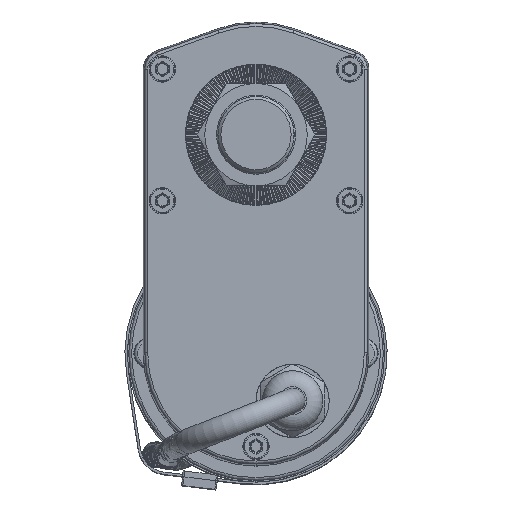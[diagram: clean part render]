
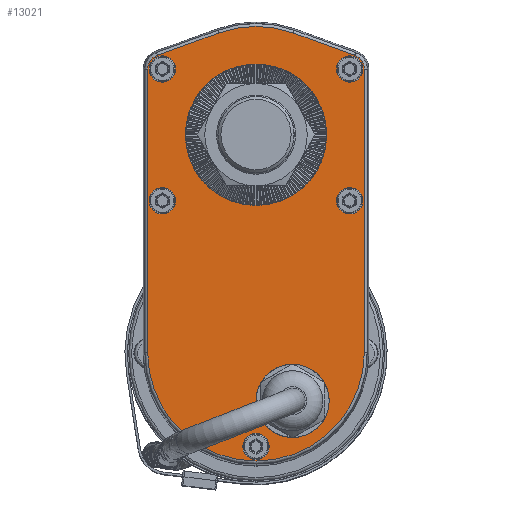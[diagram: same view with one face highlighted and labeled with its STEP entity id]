
A CAD part, top view. The second image highlights one B-rep face of the part: STEP entity #13021.
In plain terms, the highlighted planar face has unit normal (0, 0, 1).
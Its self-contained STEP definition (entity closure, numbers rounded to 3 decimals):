
#464 = CARTESIAN_POINT ( 'NONE',  ( -37.012, -74.495, 40. ) ) ;
#1195 = ORIENTED_EDGE ( 'NONE', *, *, #2910, .T. ) ;
#1910 = PLANE ( 'NONE',  #38568 ) ;
#2275 = DIRECTION ( 'NONE',  ( 0., 0., 1. ) ) ;
#2429 = EDGE_LOOP ( 'NONE', ( #39028, #14031, #37723, #32755, #1195, #13574, #15631, #17845 ) ) ;
#2608 = DIRECTION ( 'NONE',  ( 0., 0., 1. ) ) ;
#2616 = VERTEX_POINT ( 'NONE', #15198 ) ;
#2699 = CIRCLE ( 'NONE', #33305, 4.5 ) ;
#2825 = ORIENTED_EDGE ( 'NONE', *, *, #15236, .F. ) ;
#2910 = EDGE_CURVE ( 'NONE', #16701, #36470, #12224, .T. ) ;
#3984 = DIRECTION ( 'NONE',  ( 0., 0., 1. ) ) ;
#4402 = FACE_BOUND ( 'NONE', #5382, .T. ) ;
#4443 = CARTESIAN_POINT ( 'NONE',  ( -31.995, 22.46, 40. ) ) ;
#4512 = EDGE_LOOP ( 'NONE', ( #12867 ) ) ;
#4717 = VERTEX_POINT ( 'NONE', #22475 ) ;
#4920 = CARTESIAN_POINT ( 'NONE',  ( 0., 0., 40. ) ) ;
#5047 = DIRECTION ( 'NONE',  ( -1., 0., 0. ) ) ;
#5082 = AXIS2_PLACEMENT_3D ( 'NONE', #22406, #3984, #25473 ) ;
#5352 = FACE_OUTER_BOUND ( 'NONE', #2429, .T. ) ;
#5382 = EDGE_LOOP ( 'NONE', ( #30427 ) ) ;
#6255 = CARTESIAN_POINT ( 'NONE',  ( 0., 0., 40. ) ) ;
#6323 = DIRECTION ( 'NONE',  ( 0., 0., 1. ) ) ;
#6348 = FACE_BOUND ( 'NONE', #10343, .T. ) ;
#6984 = CARTESIAN_POINT ( 'NONE',  ( 32., 22.46, 40. ) ) ;
#7022 = EDGE_LOOP ( 'NONE', ( #23758 ) ) ;
#7063 = CARTESIAN_POINT ( 'NONE',  ( 12.586, 34.812, 40. ) ) ;
#7602 = DIRECTION ( 'NONE',  ( -1., 0., 0. ) ) ;
#7671 = AXIS2_PLACEMENT_3D ( 'NONE', #21058, #2608, #24099 ) ;
#8112 = CARTESIAN_POINT ( 'NONE',  ( 12.586, 34.812, 40. ) ) ;
#8287 = CARTESIAN_POINT ( 'NONE',  ( -33.701, 27.179, 40. ) ) ;
#8480 = CARTESIAN_POINT ( 'NONE',  ( 12.5, -90.966, 40. ) ) ;
#8560 = EDGE_CURVE ( 'NONE', #14800, #16701, #31329, .T. ) ;
#8660 = EDGE_CURVE ( 'NONE', #2616, #2616, #11274, .T. ) ;
#8740 = CIRCLE ( 'NONE', #5082, 4.5 ) ;
#9355 = DIRECTION ( 'NONE',  ( -1., 0., 0. ) ) ;
#9678 = EDGE_CURVE ( 'NONE', #18057, #18057, #8740, .T. ) ;
#10105 = DIRECTION ( 'NONE',  ( -1., 0., 0. ) ) ;
#10343 = EDGE_LOOP ( 'NONE', ( #2825 ) ) ;
#11274 = CIRCLE ( 'NONE', #24054, 24.1 ) ;
#11596 = DIRECTION ( 'NONE',  ( -1., 0., 0. ) ) ;
#11991 = VERTEX_POINT ( 'NONE', #15874 ) ;
#12224 = LINE ( 'NONE', #7063, #27475 ) ;
#12656 = CIRCLE ( 'NONE', #19748, 37.017 ) ;
#12657 = FACE_BOUND ( 'NONE', #7022, .T. ) ;
#12867 = ORIENTED_EDGE ( 'NONE', *, *, #9678, .F. ) ;
#12937 = CARTESIAN_POINT ( 'NONE',  ( 1.5, -90.966, 40. ) ) ;
#12943 = CIRCLE ( 'NONE', #34669, 4.5 ) ;
#12944 = EDGE_LOOP ( 'NONE', ( #22530 ) ) ;
#13021 = ADVANCED_FACE ( 'NONE', ( #20782, #5352, #37002, #6348, #37966, #28875, #12657, #4402 ), #1910, .F. ) ;
#13155 = EDGE_LOOP ( 'NONE', ( #24239 ) ) ;
#13546 = DIRECTION ( 'NONE',  ( -0.94, 0.34, 0. ) ) ;
#13574 = ORIENTED_EDGE ( 'NONE', *, *, #21553, .T. ) ;
#13648 = DIRECTION ( 'NONE',  ( 0., 0., 1. ) ) ;
#13876 = AXIS2_PLACEMENT_3D ( 'NONE', #31933, #13648, #34939 ) ;
#14031 = ORIENTED_EDGE ( 'NONE', *, *, #28936, .T. ) ;
#14409 = AXIS2_PLACEMENT_3D ( 'NONE', #6984, #28387, #10105 ) ;
#14800 = VERTEX_POINT ( 'NONE', #31536 ) ;
#14812 = CARTESIAN_POINT ( 'NONE',  ( 32., -22.54, 40. ) ) ;
#14862 = EDGE_CURVE ( 'NONE', #16149, #16149, #17800, .T. ) ;
#15198 = CARTESIAN_POINT ( 'NONE',  ( -24.1, 0., 40. ) ) ;
#15236 = EDGE_CURVE ( 'NONE', #31415, #31415, #36851, .T. ) ;
#15337 = CARTESIAN_POINT ( 'NONE',  ( -27.5, 22.46, 40. ) ) ;
#15396 = AXIS2_PLACEMENT_3D ( 'NONE', #24692, #6323, #27762 ) ;
#15631 = ORIENTED_EDGE ( 'NONE', *, *, #16018, .T. ) ;
#15697 = VECTOR ( 'NONE', #32659, 1000. ) ;
#15874 = CARTESIAN_POINT ( 'NONE',  ( 37.012, -74.495, 40. ) ) ;
#16018 = EDGE_CURVE ( 'NONE', #34357, #23346, #39170, .T. ) ;
#16149 = VERTEX_POINT ( 'NONE', #15337 ) ;
#16701 = VERTEX_POINT ( 'NONE', #28802 ) ;
#17348 = CARTESIAN_POINT ( 'NONE',  ( -32., -22.54, 40. ) ) ;
#17445 = CARTESIAN_POINT ( 'NONE',  ( -37.012, -74.495, 40. ) ) ;
#17800 = CIRCLE ( 'NONE', #13876, 4.5 ) ;
#17845 = ORIENTED_EDGE ( 'NONE', *, *, #39300, .T. ) ;
#17863 = DIRECTION ( 'NONE',  ( -1., 0., 0. ) ) ;
#18057 = VERTEX_POINT ( 'NONE', #39578 ) ;
#18069 = VECTOR ( 'NONE', #34011, 1000. ) ;
#18782 = EDGE_CURVE ( 'NONE', #11991, #14800, #34250, .T. ) ;
#19748 = AXIS2_PLACEMENT_3D ( 'NONE', #20733, #2275, #23776 ) ;
#19909 = VERTEX_POINT ( 'NONE', #12937 ) ;
#20389 = DIRECTION ( 'NONE',  ( 1., 0., 0. ) ) ;
#20733 = CARTESIAN_POINT ( 'NONE',  ( 0., 0., 40. ) ) ;
#20782 = FACE_BOUND ( 'NONE', #13155, .T. ) ;
#21058 = CARTESIAN_POINT ( 'NONE',  ( 31.995, 22.46, 40. ) ) ;
#21553 = EDGE_CURVE ( 'NONE', #36470, #34357, #12656, .T. ) ;
#21841 = VERTEX_POINT ( 'NONE', #37211 ) ;
#21992 = CARTESIAN_POINT ( 'NONE',  ( -27.5, -22.54, 40. ) ) ;
#22119 = EDGE_LOOP ( 'NONE', ( #36871 ) ) ;
#22406 = CARTESIAN_POINT ( 'NONE',  ( 0., -106.54, 40. ) ) ;
#22475 = CARTESIAN_POINT ( 'NONE',  ( -37.012, 22.46, 40. ) ) ;
#22530 = ORIENTED_EDGE ( 'NONE', *, *, #8660, .F. ) ;
#23346 = VERTEX_POINT ( 'NONE', #39148 ) ;
#23460 = DIRECTION ( 'NONE',  ( 0., 0., -1. ) ) ;
#23541 = DIRECTION ( 'NONE',  ( -0.94, -0.34, 0. ) ) ;
#23758 = ORIENTED_EDGE ( 'NONE', *, *, #34173, .F. ) ;
#23776 = DIRECTION ( 'NONE',  ( -1., 0., 0. ) ) ;
#24054 = AXIS2_PLACEMENT_3D ( 'NONE', #6255, #27696, #9355 ) ;
#24099 = DIRECTION ( 'NONE',  ( -1., 0., 0. ) ) ;
#24239 = ORIENTED_EDGE ( 'NONE', *, *, #36120, .F. ) ;
#24692 = CARTESIAN_POINT ( 'NONE',  ( 0., -74.495, 40. ) ) ;
#24743 = LINE ( 'NONE', #17445, #15697 ) ;
#24864 = VECTOR ( 'NONE', #23541, 1000. ) ;
#25473 = DIRECTION ( 'NONE',  ( 1., 0., 0. ) ) ;
#25922 = DIRECTION ( 'NONE',  ( 0., 0., 1. ) ) ;
#26493 = EDGE_CURVE ( 'NONE', #4717, #29017, #24743, .T. ) ;
#27475 = VECTOR ( 'NONE', #13546, 1000. ) ;
#27696 = DIRECTION ( 'NONE',  ( 0., 0., 1. ) ) ;
#27762 = DIRECTION ( 'NONE',  ( -1., 0., 0. ) ) ;
#27898 = CARTESIAN_POINT ( 'NONE',  ( 37.012, 22.46, 40. ) ) ;
#28387 = DIRECTION ( 'NONE',  ( 0., 0., 1. ) ) ;
#28802 = CARTESIAN_POINT ( 'NONE',  ( 33.701, 27.179, 40. ) ) ;
#28875 = FACE_BOUND ( 'NONE', #4512, .T. ) ;
#28936 = EDGE_CURVE ( 'NONE', #29017, #11991, #36651, .T. ) ;
#29017 = VERTEX_POINT ( 'NONE', #464 ) ;
#29869 = DIRECTION ( 'NONE',  ( 0., 0., 1. ) ) ;
#30427 = ORIENTED_EDGE ( 'NONE', *, *, #14862, .F. ) ;
#31329 = CIRCLE ( 'NONE', #7671, 5.017 ) ;
#31381 = CIRCLE ( 'NONE', #35931, 11. ) ;
#31415 = VERTEX_POINT ( 'NONE', #39705 ) ;
#31536 = CARTESIAN_POINT ( 'NONE',  ( 37.012, 22.46, 40. ) ) ;
#31809 = AXIS2_PLACEMENT_3D ( 'NONE', #4443, #25922, #7602 ) ;
#31933 = CARTESIAN_POINT ( 'NONE',  ( -32., 22.46, 40. ) ) ;
#32659 = DIRECTION ( 'NONE',  ( 0., -1., 0. ) ) ;
#32755 = ORIENTED_EDGE ( 'NONE', *, *, #8560, .T. ) ;
#33305 = AXIS2_PLACEMENT_3D ( 'NONE', #17348, #38672, #20389 ) ;
#33565 = EDGE_CURVE ( 'NONE', #21841, #21841, #12943, .T. ) ;
#33692 = CARTESIAN_POINT ( 'NONE',  ( -12.586, 34.812, 40. ) ) ;
#34011 = DIRECTION ( 'NONE',  ( 0., 1., 0. ) ) ;
#34173 = EDGE_CURVE ( 'NONE', #37121, #37121, #2699, .T. ) ;
#34250 = LINE ( 'NONE', #27898, #18069 ) ;
#34357 = VERTEX_POINT ( 'NONE', #33692 ) ;
#34669 = AXIS2_PLACEMENT_3D ( 'NONE', #14812, #36124, #17863 ) ;
#34939 = DIRECTION ( 'NONE',  ( 1., 0., 0. ) ) ;
#35931 = AXIS2_PLACEMENT_3D ( 'NONE', #8480, #29869, #11596 ) ;
#36120 = EDGE_CURVE ( 'NONE', #19909, #19909, #31381, .T. ) ;
#36124 = DIRECTION ( 'NONE',  ( 0., 0., 1. ) ) ;
#36470 = VERTEX_POINT ( 'NONE', #8112 ) ;
#36651 = CIRCLE ( 'NONE', #15396, 37.012 ) ;
#36851 = CIRCLE ( 'NONE', #14409, 4.5 ) ;
#36871 = ORIENTED_EDGE ( 'NONE', *, *, #33565, .F. ) ;
#37002 = FACE_BOUND ( 'NONE', #12944, .T. ) ;
#37121 = VERTEX_POINT ( 'NONE', #21992 ) ;
#37203 = CIRCLE ( 'NONE', #31809, 5.017 ) ;
#37211 = CARTESIAN_POINT ( 'NONE',  ( 27.5, -22.54, 40. ) ) ;
#37723 = ORIENTED_EDGE ( 'NONE', *, *, #18782, .T. ) ;
#37966 = FACE_BOUND ( 'NONE', #22119, .T. ) ;
#38568 = AXIS2_PLACEMENT_3D ( 'NONE', #4920, #23460, #5047 ) ;
#38672 = DIRECTION ( 'NONE',  ( 0., 0., 1. ) ) ;
#39028 = ORIENTED_EDGE ( 'NONE', *, *, #26493, .T. ) ;
#39148 = CARTESIAN_POINT ( 'NONE',  ( -33.701, 27.179, 40. ) ) ;
#39170 = LINE ( 'NONE', #8287, #24864 ) ;
#39300 = EDGE_CURVE ( 'NONE', #23346, #4717, #37203, .T. ) ;
#39578 = CARTESIAN_POINT ( 'NONE',  ( 4.5, -106.54, 40. ) ) ;
#39705 = CARTESIAN_POINT ( 'NONE',  ( 27.5, 22.46, 40. ) ) ;
